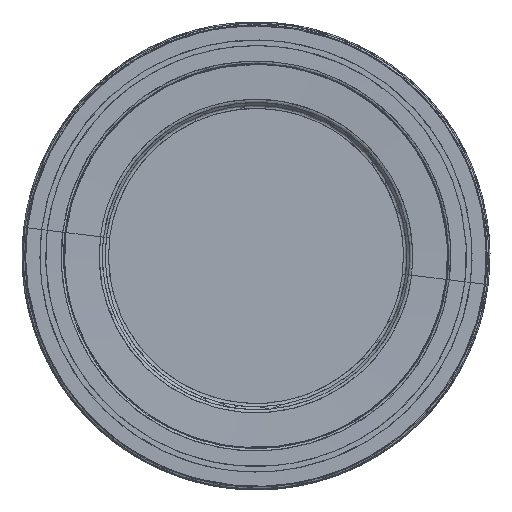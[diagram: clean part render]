
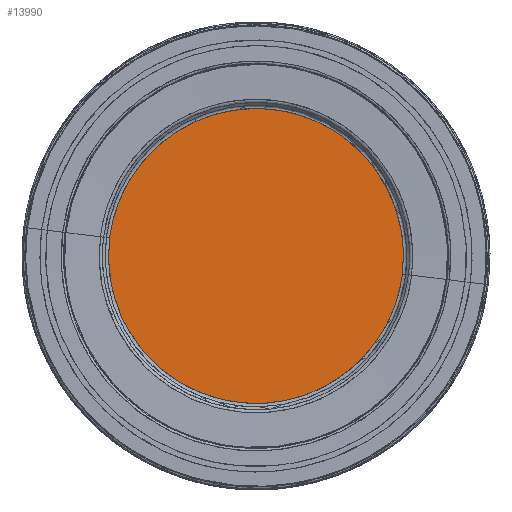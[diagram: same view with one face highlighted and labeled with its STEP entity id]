
A CAD part, front view. The second image highlights one B-rep face of the part: STEP entity #13990.
In plain terms, the highlighted planar face has unit normal (0, -1, 0).
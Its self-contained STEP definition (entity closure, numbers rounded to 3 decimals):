
#13990 = ADVANCED_FACE('',(#13991),#14021,.T.);
#13991 = FACE_BOUND('',#13992,.T.);
#13992 = EDGE_LOOP('',(#13993,#14048));
#13993 = ORIENTED_EDGE('',*,*,#13994,.T.);
#13994 = EDGE_CURVE('',#13995,#13997,#13999,.T.);
#13995 = VERTEX_POINT('',#13996);
#13996 = CARTESIAN_POINT('',(-31.281,2.159,
    3.858));
#13997 = VERTEX_POINT('',#13998);
#13998 = CARTESIAN_POINT('',(31.281,2.159,
    -3.858));
#13999 = SURFACE_CURVE('',#14000,(#14020),.PCURVE_S1.);
#14000 = B_SPLINE_CURVE_WITH_KNOTS('',3,(#14001,#14002,#14003,#14004,
    #14005,#14006,#14007,#14008,#14009,#14010,#14011,#14012,#14013,
    #14014,#14015,#14016,#14017,#14018,#14019),.UNSPECIFIED.,.F.,.F.,(4,
    3,3,3,3,3,4),(0.,0.125,0.249,0.456,
    0.705,0.954,1.),.UNSPECIFIED.);
#14001 = CARTESIAN_POINT('',(-31.281,2.159,
    3.858));
#14002 = CARTESIAN_POINT('',(-31.79,2.159,
    -0.27));
#14003 = CARTESIAN_POINT('',(-31.473,2.159,
    -4.415));
#14004 = CARTESIAN_POINT('',(-30.391,2.159,
    -8.35));
#14005 = CARTESIAN_POINT('',(-29.31,2.159,
    -12.286));
#14006 = CARTESIAN_POINT('',(-27.465,2.159,
    -16.011));
#14007 = CARTESIAN_POINT('',(-24.918,2.159,
    -19.299));
#14008 = CARTESIAN_POINT('',(-20.69,2.159,
    -24.759));
#14009 = CARTESIAN_POINT('',(-14.786,2.159,
    -28.678));
#14010 = CARTESIAN_POINT('',(-8.113,2.159,
    -30.456));
#14011 = CARTESIAN_POINT('',(-0.075,2.159,
    -32.597));
#14012 = CARTESIAN_POINT('',(8.485,2.159,
    -31.474));
#14013 = CARTESIAN_POINT('',(15.698,2.159,
    -27.33));
#14014 = CARTESIAN_POINT('',(22.912,2.159,
    -23.187));
#14015 = CARTESIAN_POINT('',(28.195,2.159,
    -16.359));
#14016 = CARTESIAN_POINT('',(30.395,2.159,
    -8.337));
#14017 = CARTESIAN_POINT('',(30.798,2.159,
    -6.867));
#14018 = CARTESIAN_POINT('',(31.094,2.159,
    -5.37));
#14019 = CARTESIAN_POINT('',(31.281,2.159,
    -3.858));
#14020 = PCURVE('',#14021,#14026);
#14021 = PLANE('',#14022);
#14022 = AXIS2_PLACEMENT_3D('',#14023,#14024,#14025);
#14023 = CARTESIAN_POINT('',(-31.79,2.159,
    -32.597));
#14024 = DIRECTION('',(0.,-1.,0.));
#14025 = DIRECTION('',(1.,0.,0.));
#14026 = DEFINITIONAL_REPRESENTATION('',(#14027),#14047);
#14027 = B_SPLINE_CURVE_WITH_KNOTS('',3,(#14028,#14029,#14030,#14031,
    #14032,#14033,#14034,#14035,#14036,#14037,#14038,#14039,#14040,
    #14041,#14042,#14043,#14044,#14045,#14046),.UNSPECIFIED.,.F.,.F.,(4,
    3,3,3,3,3,4),(0.,0.125,0.249,0.456,
    0.705,0.954,1.),.UNSPECIFIED.);
#14028 = CARTESIAN_POINT('',(0.509,36.455));
#14029 = CARTESIAN_POINT('',(0.,32.327));
#14030 = CARTESIAN_POINT('',(0.317,28.182));
#14031 = CARTESIAN_POINT('',(1.398,24.247));
#14032 = CARTESIAN_POINT('',(2.48,20.312));
#14033 = CARTESIAN_POINT('',(4.325,16.586));
#14034 = CARTESIAN_POINT('',(6.872,13.298));
#14035 = CARTESIAN_POINT('',(11.1,7.839));
#14036 = CARTESIAN_POINT('',(17.004,3.919));
#14037 = CARTESIAN_POINT('',(23.677,2.141));
#14038 = CARTESIAN_POINT('',(31.715,0.));
#14039 = CARTESIAN_POINT('',(40.275,1.124));
#14040 = CARTESIAN_POINT('',(47.488,5.267));
#14041 = CARTESIAN_POINT('',(54.702,9.41));
#14042 = CARTESIAN_POINT('',(59.985,16.238));
#14043 = CARTESIAN_POINT('',(62.185,24.261));
#14044 = CARTESIAN_POINT('',(62.588,25.73));
#14045 = CARTESIAN_POINT('',(62.884,27.227));
#14046 = CARTESIAN_POINT('',(63.071,28.739));
#14047 = ( GEOMETRIC_REPRESENTATION_CONTEXT(2) 
PARAMETRIC_REPRESENTATION_CONTEXT() REPRESENTATION_CONTEXT('2D SPACE',''
  ) );
#14048 = ORIENTED_EDGE('',*,*,#14049,.T.);
#14049 = EDGE_CURVE('',#13997,#13995,#14050,.T.);
#14050 = SURFACE_CURVE('',#14051,(#14071),.PCURVE_S1.);
#14051 = B_SPLINE_CURVE_WITH_KNOTS('',3,(#14052,#14053,#14054,#14055,
    #14056,#14057,#14058,#14059,#14060,#14061,#14062,#14063,#14064,
    #14065,#14066,#14067,#14068,#14069,#14070),.UNSPECIFIED.,.F.,.F.,(4,
    3,3,3,3,3,4),(0.,0.125,0.249,0.456,
    0.705,0.954,1.),.UNSPECIFIED.);
#14052 = CARTESIAN_POINT('',(31.281,2.159,
    -3.858));
#14053 = CARTESIAN_POINT('',(31.79,2.159,
    0.27));
#14054 = CARTESIAN_POINT('',(31.473,2.159,
    4.415));
#14055 = CARTESIAN_POINT('',(30.391,2.159,
    8.35));
#14056 = CARTESIAN_POINT('',(29.31,2.159,
    12.286));
#14057 = CARTESIAN_POINT('',(27.465,2.159,
    16.011));
#14058 = CARTESIAN_POINT('',(24.918,2.159,
    19.299));
#14059 = CARTESIAN_POINT('',(20.69,2.159,
    24.759));
#14060 = CARTESIAN_POINT('',(14.786,2.159,
    28.678));
#14061 = CARTESIAN_POINT('',(8.113,2.159,
    30.456));
#14062 = CARTESIAN_POINT('',(0.075,2.159,
    32.597));
#14063 = CARTESIAN_POINT('',(-8.485,2.159,
    31.474));
#14064 = CARTESIAN_POINT('',(-15.698,2.159,
    27.33));
#14065 = CARTESIAN_POINT('',(-22.912,2.159,
    23.187));
#14066 = CARTESIAN_POINT('',(-28.195,2.159,
    16.359));
#14067 = CARTESIAN_POINT('',(-30.395,2.159,
    8.337));
#14068 = CARTESIAN_POINT('',(-30.798,2.159,
    6.867));
#14069 = CARTESIAN_POINT('',(-31.094,2.159,
    5.37));
#14070 = CARTESIAN_POINT('',(-31.281,2.159,
    3.858));
#14071 = PCURVE('',#14021,#14072);
#14072 = DEFINITIONAL_REPRESENTATION('',(#14073),#14093);
#14073 = B_SPLINE_CURVE_WITH_KNOTS('',3,(#14074,#14075,#14076,#14077,
    #14078,#14079,#14080,#14081,#14082,#14083,#14084,#14085,#14086,
    #14087,#14088,#14089,#14090,#14091,#14092),.UNSPECIFIED.,.F.,.F.,(4,
    3,3,3,3,3,4),(0.,0.125,0.249,0.456,
    0.705,0.954,1.),.UNSPECIFIED.);
#14074 = CARTESIAN_POINT('',(63.071,28.739));
#14075 = CARTESIAN_POINT('',(63.58,32.867));
#14076 = CARTESIAN_POINT('',(63.263,37.012));
#14077 = CARTESIAN_POINT('',(62.181,40.947));
#14078 = CARTESIAN_POINT('',(61.1,44.883));
#14079 = CARTESIAN_POINT('',(59.255,48.608));
#14080 = CARTESIAN_POINT('',(56.708,51.896));
#14081 = CARTESIAN_POINT('',(52.48,57.356));
#14082 = CARTESIAN_POINT('',(46.576,61.275));
#14083 = CARTESIAN_POINT('',(39.903,63.053));
#14084 = CARTESIAN_POINT('',(31.865,65.194));
#14085 = CARTESIAN_POINT('',(23.305,64.071));
#14086 = CARTESIAN_POINT('',(16.092,59.927));
#14087 = CARTESIAN_POINT('',(8.878,55.784));
#14088 = CARTESIAN_POINT('',(3.595,48.956));
#14089 = CARTESIAN_POINT('',(1.395,40.934));
#14090 = CARTESIAN_POINT('',(0.992,39.464));
#14091 = CARTESIAN_POINT('',(0.696,37.968));
#14092 = CARTESIAN_POINT('',(0.509,36.455));
#14093 = ( GEOMETRIC_REPRESENTATION_CONTEXT(2) 
PARAMETRIC_REPRESENTATION_CONTEXT() REPRESENTATION_CONTEXT('2D SPACE',''
  ) );
